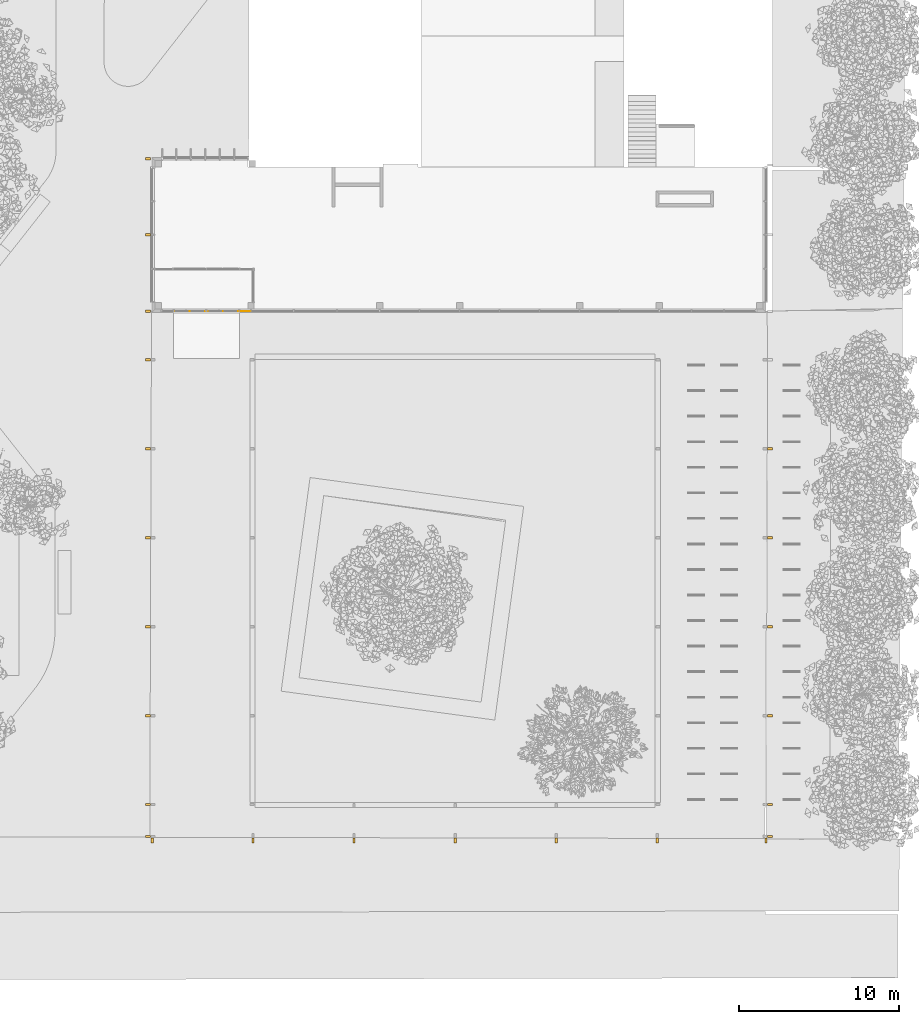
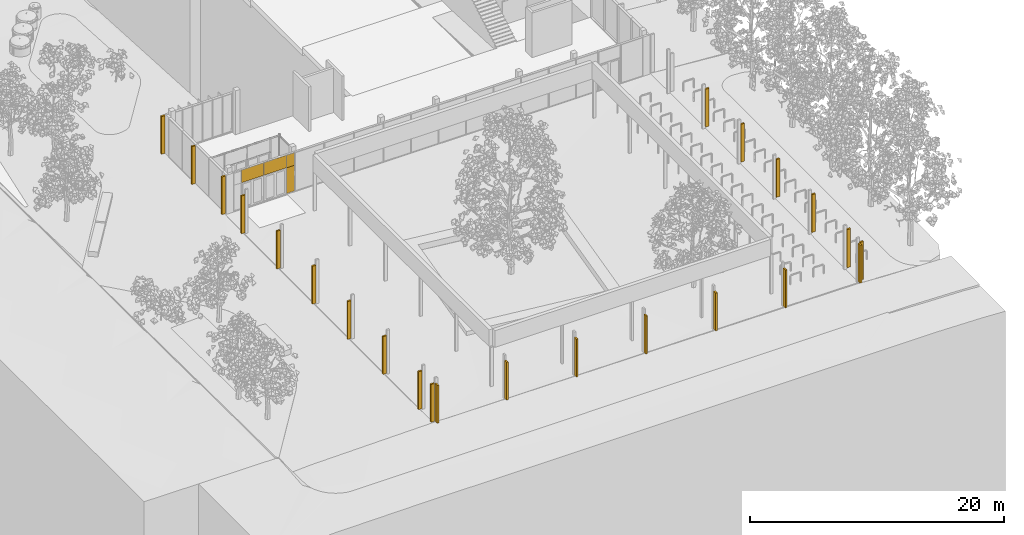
# One storey, part 41 of 69: 23 coverings, 4 doors, 1 element without a shape of its own.
"""IFC2X3 building model written with IfcOpenShell, lengths in millimetres."""

from ifc_helpers import new_model, entity, si_unit, converted_unit, derived_unit, money_unit, direction, frame, origin_with_axes, origin_2d_with_axis, place, context, subcontext, project, spatial, polyline, rectangle, outline, extrude, material, type_object, element, aggregate, save


model = new_model("IFC2X3")

# Units and contexts
model_context = context("Model", 3, precision=0.01, world=origin_with_axes(), true_north=direction((0.0, 1.0)))
body_context = subcontext(model_context, "Body", "Model", "MODEL_VIEW")
ifc_project = project(units=[si_unit("LENGTHUNIT", "METRE", prefix="MILLI"), si_unit("AREAUNIT", "SQUARE_METRE"), si_unit("VOLUMEUNIT", "CUBIC_METRE"), converted_unit("PLANEANGLEUNIT", "DEGREE", entity("IfcPlaneAngleMeasure", 0.0174532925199), si_unit("PLANEANGLEUNIT", "RADIAN"), dimensions=[0, 0, 0, 0, 0, 0, 0]), si_unit("SOLIDANGLEUNIT", "STERADIAN"), money_unit("EUR"), converted_unit("TIMEUNIT", "Year", entity("IfcTimeMeasure", 31556926.0), si_unit("TIMEUNIT", "SECOND"), dimensions=[0, 0, 1, 0, 0, 0, 0]), si_unit("MASSUNIT", "GRAM", prefix="KILO"), si_unit("THERMODYNAMICTEMPERATUREUNIT", "DEGREE_CELSIUS"), si_unit("LUMINOUSINTENSITYUNIT", "LUMEN"), si_unit("ENERGYUNIT", "JOULE", prefix="MEGA"), derived_unit("THERMALCONDUCTANCEUNIT", [(si_unit("POWERUNIT", "WATT"), 1), (si_unit("LENGTHUNIT", "METRE"), -1), (si_unit("THERMODYNAMICTEMPERATUREUNIT", "KELVIN"), -1)]), derived_unit("SPECIFICHEATCAPACITYUNIT", [(si_unit("ENERGYUNIT", "JOULE"), 1), (si_unit("MASSUNIT", "GRAM", prefix="KILO"), -1), (si_unit("THERMODYNAMICTEMPERATUREUNIT", "KELVIN"), -1)]), derived_unit("MASSDENSITYUNIT", [(si_unit("MASSUNIT", "GRAM", prefix="KILO"), 1), (si_unit("VOLUMEUNIT", "CUBIC_METRE"), -1)])], contexts=[model_context])

# Site, building, storey
site_placement = place(None, origin_with_axes())
site = spatial("IfcSite", under=ifc_project, at=site_placement, Name="Puškini 31, Narva", CompositionType="ELEMENT")
building_placement = place(site_placement, origin_with_axes())
building = spatial("IfcBuilding", under=site, at=building_placement, Name="Narva Riigigümnaasium", CompositionType="ELEMENT")
storey_placement = place(building_placement, origin_with_axes())
storey = spatial("IfcBuildingStorey", under=building, at=storey_placement, Name="1.korrus 0.00", CompositionType="ELEMENT", Elevation=0.0)

# Curtain wall, doors
curtain_wall_type = type_object("IfcCurtainWallType", Name="Curtain Wall Type", PredefinedType="NOTDEFINED")
curtain_wall_placement = place(storey_placement, frame((18232.2449236, 149970.00001, 0.0), z_axis=(0.0, 0.0, 1.0), x_axis=(1.0, 0.0, 0.0)))
curtain_wall = element("IfcCurtainWall", 1, at=curtain_wall_placement, inside=storey, type_object=curtain_wall_type, Name="G-KLF-01a")
ifc_material_1 = material(Name="VKR-05_Klaas")
door_style_1 = type_object("IfcDoorStyle", Name="1266 x 1215 x 20", ConstructionType="NOTDEFINED", OperationType="NOTDEFINED", ParameterTakesPrecedence=False, Sizeable=False)
door_1_placement = place(curtain_wall_placement, frame((2047.66666235, 0.0, 3129.99998837), z_axis=(0.0, 0.0, 1.0), x_axis=(1.0, 0.0, 0.0)))
door_1 = element("IfcDoor", 2, at=door_1_placement, type_object=door_style_1, material=ifc_material_1, Name="G-KLF-01-VU-01", ObjectType="DOOR", context=body_context, shape_type="SweptSolid", body=[
    extrude(outline(polyline([(-931.227938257, -594.999998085), (1098.77209388, -594.999998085), (1098.77209388, 620.000021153), (-931.227938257, 620.000021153), (-931.227938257, -594.999998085)])), frame((0.0, -9.99999999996, 0.0), z_axis=(0.0, 1.0, 0.0), x_axis=(1.0, 0.0, 0.0)), (0.0, 0.0, 1.0), 20.0),
])
door_style_2 = type_object("IfcDoorStyle", Name="722 x 1225 x 20", ConstructionType="NOTDEFINED", OperationType="NOTDEFINED", ParameterTakesPrecedence=False, Sizeable=False)
door_2_placement = place(curtain_wall_placement, frame((3468.11225423, 0.0, 3004.00010944), z_axis=(0.0, 0.0, 1.0), x_axis=(1.0, 0.0, 0.0)))
door_2 = element("IfcDoor", 3, at=door_2_placement, type_object=door_style_2, material=ifc_material_1, Name="G-KLF-01-VU-01", ObjectType="DOOR", context=body_context, shape_type="SweptSolid", body=[
    extrude(outline(polyline([(-301.673512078, -720.999895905), (420.01025974, -720.999895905), (420.01025974, 503.999541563), (-286.673498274, 504.000123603), (-286.67351705, 494.000114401), (-301.673493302, 494.000114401), (-301.673512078, -720.999895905)])), frame((0.0, -9.99999999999, 0.0), z_axis=(0.0, 1.0, 0.0), x_axis=(1.0, 0.0, 0.0)), (0.0, 0.0, 1.0), 20.0),
])
door_style_3 = type_object("IfcDoorStyle", Name="1259 x 1215 x 20", ConstructionType="NOTDEFINED", OperationType="NOTDEFINED", ParameterTakesPrecedence=False, Sizeable=False)
door_3_placement = place(curtain_wall_placement, frame((-1.32319755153e-06, 0.0, 3129.99997309), z_axis=(0.0, 0.0, 1.0), x_axis=(1.0, 0.0, 0.0)))
door_3 = element("IfcDoor", 4, at=door_3_placement, type_object=door_style_3, material=ifc_material_1, Name="G-KLF-01-VU-01", ObjectType="DOOR", context=body_context, shape_type="SweptSolid", body=[
    extrude(outline(polyline([(-933.561235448, -595.00003115), (1096.43873335, -595.00003115), (1096.43873335, 620.000011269), (-933.561235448, 620.000041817), (-933.561235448, -595.00003115)])), frame((0.0, -9.99999999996, 0.0), z_axis=(0.0, 1.0, 0.0), x_axis=(1.0, 0.0, 0.0)), (0.0, 0.0, 1.0), 20.0),
])
door_style_4 = type_object("IfcDoorStyle", Name="707 x 2465 x 20", ConstructionType="NOTDEFINED", OperationType="NOTDEFINED", ParameterTakesPrecedence=False, Sizeable=False)
door_4_placement = place(curtain_wall_placement, frame((3468.1122558, 0.0, 1500.00010944), z_axis=(0.0, 0.0, 1.0), x_axis=(1.0, 0.0, 0.0)))
door_4 = element("IfcDoor", 5, at=door_4_placement, type_object=door_style_4, material=ifc_material_1, Name="G-KLF-01-VU-01", ObjectType="DOOR", context=body_context, shape_type="SweptSolid", body=[
    extrude(outline(polyline([(-286.673502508, -999.999887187), (420.010251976, -1000.00044598), (420.010251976, 1465.00010859), (-301.673513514, 1465.00010859), (-301.673513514, -989.999855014), (-286.673502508, -989.999892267), (-286.673502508, -999.999887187)])), frame((0.0, -9.99999999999, 0.0), z_axis=(0.0, 1.0, 0.0), x_axis=(1.0, 0.0, 0.0)), (0.0, 0.0, 1.0), 20.0),
])
aggregate(curtain_wall, [door_1, door_2, door_3, door_4])

# Coverings
ifc_material_2 = material(Name="Puitroov")
covering_type = type_object("IfcCoveringType", Name="Puitroov 150 x 320", PredefinedType="NOTDEFINED")
for number, where, z_axis, x_axis in (
    (6, (54643.000001, 141354.50348, 100.0), (0.0, 0.0, 1.0), (0.0, 1.0, 0.0)),
    (7, (54643.000001, 135784.50348, 100.0), (0.0, 0.0, 1.0), (0.0, 1.0, 0.0)),
    (8, (54643.000001, 130214.50348, 100.0), (0.0, 0.0, 1.0), (0.0, 1.0, 0.0)),
    (9, (54643.000001, 124644.50348, 100.0), (0.0, 0.0, 1.0), (0.0, 1.0, 0.0)),
):
    element("IfcCovering", number, at=place(storey_placement, frame(where, z_axis=z_axis, x_axis=x_axis)), inside=storey, type_object=covering_type, material=ifc_material_2, Name="Lamell", PredefinedType="NOTDEFINED", context=body_context, shape_type="SweptSolid", body=[
        extrude(rectangle(XDim=150.0, YDim=320.0, at=origin_2d_with_axis()), origin_with_axes(), (0.0, 0.0, 1.0), 3635.0),
    ])
covering_placement = place(storey_placement, frame((54643.000001, 119074.50348, 100.0), z_axis=(0.0, 0.0, 1.0), x_axis=(0.0, 1.0, 0.0)))
element("IfcCovering", 10, at=covering_placement, inside=storey, type_object=covering_type, material=ifc_material_2, Name="Lamell", PredefinedType="NOTDEFINED", context=body_context, shape_type="SweptSolid", body=[
    extrude(rectangle(XDim=150.0, YDim=320.0, at=origin_2d_with_axis()), origin_with_axes(), (0.0, 0.0, 1.0), 3660.0),
])
for number, where, z_axis, x_axis in (
    (11, (54643.000001, 117074.503479, 100.0), (0.0, 0.0, 1.0), (0.0, 1.0, 0.0)),
    (12, (54385.000001, 116815.001864, 100.0), (0.0, 0.0, 1.0), (1.0, 0.0, 0.0)),
    (13, (47575.00125, 116815.001864, 100.0), (0.0, 0.0, 1.0), (1.0, 0.0, 0.0)),
    (14, (41244.9999928, 116815.001864, 100.0), (0.0, 0.0, 1.0), (1.0, 0.0, 0.0)),
    (15, (34914.9995416, 116815.001864, 100.0), (0.0, 0.0, 1.0), (1.0, 0.0, 0.0)),
    (16, (28584.9982843, 116815.001864, 100.0), (0.0, 0.0, 1.0), (1.0, 0.0, 0.0)),
    (17, (22255.3673645, 116815.001864, 100.0), (0.0, 0.0, 1.0), (1.0, 0.0, 0.0)),
    (18, (15945.0, 116814.503479, 100.0), (0.0, 0.0, 1.0), (1.0, 0.0, 0.0)),
    (19, (15680.9999998, 117074.503479, 100.0), (0.0, 0.0, 1.0), (0.0, 1.0, 0.0)),
    (20, (15680.9999998, 119075.001258, 100.0), (0.0, 0.0, 1.0), (0.0, 1.0, 0.0)),
    (21, (15680.9999998, 124645.000001, 100.0), (0.0, 0.0, 1.0), (0.0, 1.0, 0.0)),
    (22, (15680.9999998, 130215.000001, 100.0), (0.0, 0.0, 1.0), (0.0, 1.0, 0.0)),
    (23, (15680.9999998, 135785.000001, 100.0), (0.0, 0.0, 1.0), (0.0, 1.0, 0.0)),
    (24, (15680.9999998, 141355.002515, 100.0), (0.0, 0.0, 1.0), (0.0, 1.0, 0.0)),
    (25, (15680.9999998, 146925.001258, 100.0), (0.0, 0.0, 1.0), (0.0, 1.0, 0.0)),
):
    element("IfcCovering", number, at=place(storey_placement, frame(where, z_axis=z_axis, x_axis=x_axis)), inside=storey, type_object=covering_type, material=ifc_material_2, Name="Lamell", PredefinedType="NOTDEFINED", context=body_context, shape_type="SweptSolid", body=[
        extrude(rectangle(XDim=150.0, YDim=320.0, at=origin_2d_with_axis()), origin_with_axes(), (0.0, 0.0, 1.0), 3635.0),
    ])
for number, where, z_axis, x_axis in (
    (26, (15680.9999998, 149975.59657, 100.0), (0.0, 0.0, 1.0), (0.0, 1.0, 0.0)),
    (27, (15680.9999998, 159524.99996, 100.0), (0.0, 0.0, 1.0), (0.0, 1.0, 0.0)),
    (28, (15680.9999998, 154750.29829, 100.0), (0.0, 0.0, 1.0), (0.0, 1.0, 0.0)),
):
    element("IfcCovering", number, at=place(storey_placement, frame(where, z_axis=z_axis, x_axis=x_axis)), inside=storey, type_object=covering_type, material=ifc_material_2, Name="Lamell", PredefinedType="NOTDEFINED", context=body_context, shape_type="SweptSolid", body=[
        extrude(rectangle(XDim=150.0, YDim=320.0, at=origin_2d_with_axis()), origin_with_axes(), (0.0, 0.0, 1.0), 3629.0),
    ])

save(model, "model.ifc")
